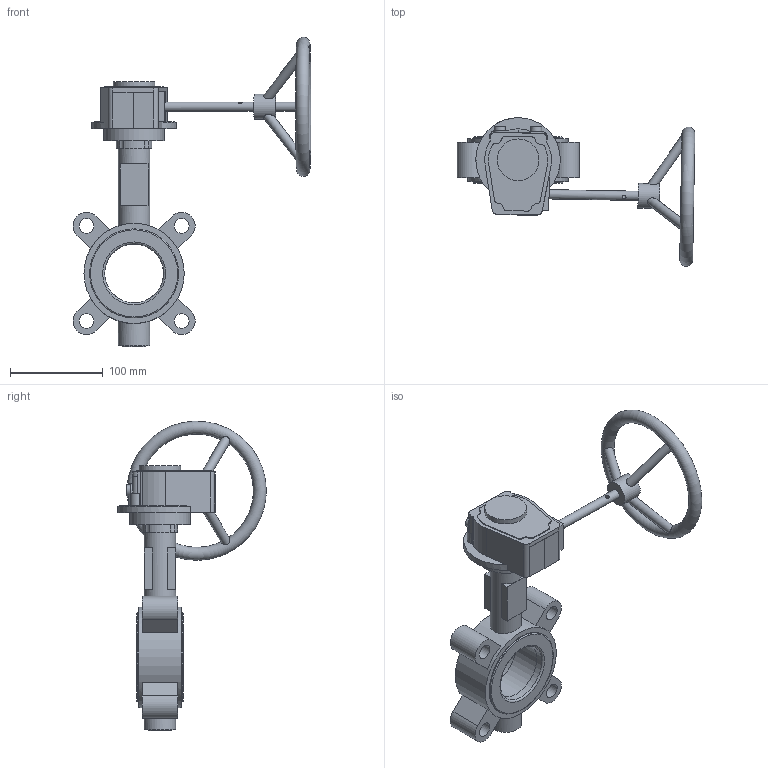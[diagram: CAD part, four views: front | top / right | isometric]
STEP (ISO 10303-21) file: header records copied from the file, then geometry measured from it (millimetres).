
FILE_DESCRIPTION (( 'STEP AP203' ), '1' );
FILE_NAME ('2502 LT型中线衬胶带销 手动头蝶阀 DN65 PN16 CD0309116.STEP', '2026-03-25T01:36:11', ( '' ), ( '' ), 'SwSTEP 2.0', 'SolidWorks 2018', '' );
FILE_SCHEMA (( 'CONFIG_CONTROL_DESIGN' ));
Length unit declared in the file: millimetre
Products named in the file (5): DIN908 塞堵M20×1.5; GALA-D65-04AZC-00; G12L忒雄芛 潠趙; GALA-D65-01LC-00; 2502 LT型中线衬胶带销 手动头蝶阀 DN65 PN16 CD0309116
Assembly tree (4 placements, depth 2):
  2502 LT型中线衬胶带销 手动头蝶阀 DN65 PN16 CD0309116
    GALA-D65-04AZC-00
    DIN908 塞堵M20×1.5
    GALA-D65-01LC-00
    G12L忒雄芛 潠趙
Bounding box: 256.23 x 160.16 x 333.47 mm (x, y, z)
Volume: 921192.8 mm3; surface area: 186005.3 mm2
Topology: 5 solids, 10 shells, 254 faces, 632 edges, 414 vertices
Faces by surface type: cylinder 120, plane 110, torus 9, cone 7, bspline 6, sphere 2
Full cylindrical faces by diameter (mm): 4 x1, 7 x4, 10 x5, 12 x2, 16 x4, 20 x1, 25 x1, 27 x2, 31.6 x1, 34 x3, 45 x1, 63.267 x1, 65 x1, 72 x2, 91 x1, 96 x4, 108 x1
Entity records: 9079 total; most frequent: CARTESIAN_POINT 2888, DIRECTION 1154, ORIENTED_EDGE 1134, EDGE_CURVE 567, AXIS2_PLACEMENT_3D 451, VERTEX_POINT 401, EDGE_LOOP 350, FACE_OUTER_BOUND 296
